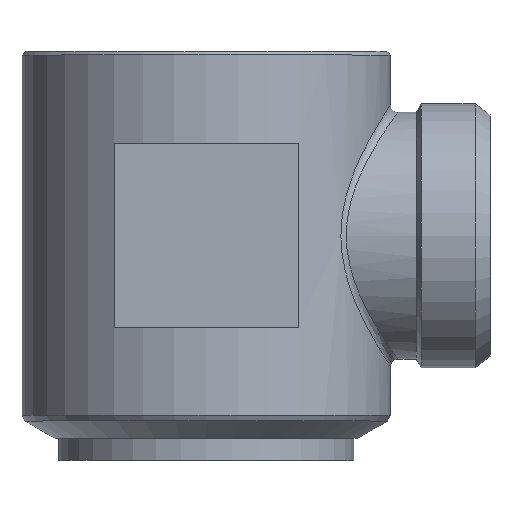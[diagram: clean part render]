
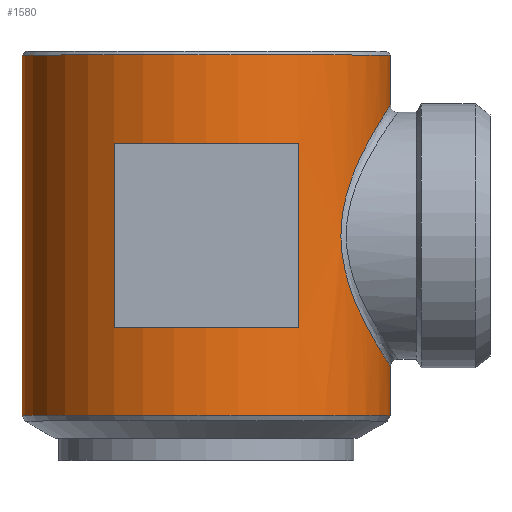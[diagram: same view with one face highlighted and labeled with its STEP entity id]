
A CAD part, top view. The second image highlights one B-rep face of the part: STEP entity #1580.
In plain terms, the highlighted cylindrical face has radius 25 mm (diameter 50 mm), a partial arc.
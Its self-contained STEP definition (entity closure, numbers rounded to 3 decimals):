
#279=CARTESIAN_POINT('',(-25.0,34.25,0.));
#280=VERTEX_POINT('',#279);
#296=CARTESIAN_POINT('',(25.0,34.25,0.0));
#297=VERTEX_POINT('',#296);
#361=CARTESIAN_POINT('',(25.0,-14.652,0.));
#362=VERTEX_POINT('',#361);
#363=CARTESIAN_POINT('',(25.0,-8.0,0.));
#364=VERTEX_POINT('',#363);
#365=CARTESIAN_POINT('',(25.0,-14.652,0.));
#366=DIRECTION('',(0.0,1.0,0.0));
#367=VECTOR('',#366,6.652);
#368=LINE('',#365,#367);
#369=EDGE_CURVE('',#362,#364,#368,.T.);
#371=CARTESIAN_POINT('',(-25.0,-14.652,0.0));
#372=VERTEX_POINT('',#371);
#380=CARTESIAN_POINT('',(-25.0,34.25,0.));
#381=DIRECTION('',(0.0,-1.0,0.0));
#382=VECTOR('',#381,48.902);
#383=LINE('',#380,#382);
#384=EDGE_CURVE('',#280,#372,#383,.T.);
#387=CARTESIAN_POINT('',(25.0,27.5,0.));
#388=VERTEX_POINT('',#387);
#389=CARTESIAN_POINT('',(25.0,27.5,0.));
#390=DIRECTION('',(0.0,1.0,0.0));
#391=VECTOR('',#390,6.75);
#392=LINE('',#389,#391);
#393=EDGE_CURVE('',#388,#297,#392,.T.);
#1469=CARTESIAN_POINT('',(0.0,-14.652,0.0));
#1470=DIRECTION('',(0.0,-1.0,0.0));
#1471=DIRECTION('',(1.0,0.0,0.0));
#1472=AXIS2_PLACEMENT_3D('',#1469,#1470,#1471);
#1473=CIRCLE('',#1472,25.0);
#1474=EDGE_CURVE('',#362,#372,#1473,.T.);
#1487=CARTESIAN_POINT('',(0.0,-17.75,0.0));
#1488=DIRECTION('',(0.0,1.0,0.0));
#1489=DIRECTION('',(1.0,0.0,0.0));
#1490=AXIS2_PLACEMENT_3D('',#1487,#1488,#1489);
#1491=CYLINDRICAL_SURFACE('',#1490,25.0);
#1492=ORIENTED_EDGE('',*,*,#369,.T.);
#1493=CARTESIAN_POINT('',(25.0,-8.0,0.));
#1494=CARTESIAN_POINT('',(25.0,-8.0,0.305));
#1495=CARTESIAN_POINT('',(24.994,-7.991,0.611));
#1496=CARTESIAN_POINT('',(24.855,-7.779,4.421));
#1497=CARTESIAN_POINT('',(23.938,-6.428,7.768));
#1498=CARTESIAN_POINT('',(21.49,-2.149,13.12));
#1499=CARTESIAN_POINT('',(19.937,0.797,15.15));
#1500=CARTESIAN_POINT('',(18.524,6.103,16.805));
#1501=CARTESIAN_POINT('',(18.238,8.09,17.099));
#1502=CARTESIAN_POINT('',(18.303,12.054,17.03));
#1503=CARTESIAN_POINT('',(18.651,14.017,16.668));
#1504=CARTESIAN_POINT('',(19.839,18.085,15.248));
#1505=CARTESIAN_POINT('',(20.764,20.118,14.038));
#1506=CARTESIAN_POINT('',(22.769,24.001,10.561));
#1507=CARTESIAN_POINT('',(23.832,25.684,8.09));
#1508=CARTESIAN_POINT('',(24.803,27.203,3.576));
#1509=CARTESIAN_POINT('',(25.0,27.5,1.788));
#1510=CARTESIAN_POINT('',(25.0,27.5,0.));
#1511=B_SPLINE_CURVE_WITH_KNOTS('',3,(#1493,#1494,#1495,#1496,#1497,#1498,#1499,#1500,#1501,#1502,#1503,#1504,#1505,#1506,#1507,#1508,#1509,#1510),.UNSPECIFIED.,.F.,.U.,(4,2,2,2,2,2,2,2,4),(26.301,27.169,37.164,47.483,52.907,58.332,65.22,73.815,78.909),.UNSPECIFIED.);
#1512=EDGE_CURVE('',#388,#364,#1511,.F.);
#1513=ORIENTED_EDGE('',*,*,#1512,.F.);
#1514=ORIENTED_EDGE('',*,*,#393,.T.);
#1515=CARTESIAN_POINT('',(0.0,34.25,0.0));
#1516=DIRECTION('',(0.0,1.0,0.0));
#1517=DIRECTION('',(-1.0,0.0,0.0));
#1518=AXIS2_PLACEMENT_3D('',#1515,#1516,#1517);
#1519=CIRCLE('',#1518,25.0);
#1520=EDGE_CURVE('',#280,#297,#1519,.T.);
#1521=ORIENTED_EDGE('',*,*,#1520,.F.);
#1522=ORIENTED_EDGE('',*,*,#384,.T.);
#1523=ORIENTED_EDGE('',*,*,#1474,.F.);
#1524=EDGE_LOOP('',(#1492,#1513,#1514,#1521,#1522,#1523));
#1525=FACE_OUTER_BOUND('',#1524,.T.);
#1526=CARTESIAN_POINT('',(-12.5,-2.75,21.651));
#1527=VERTEX_POINT('',#1526);
#1528=CARTESIAN_POINT('',(-12.5,22.25,21.651));
#1529=VERTEX_POINT('',#1528);
#1530=CARTESIAN_POINT('',(-12.5,-2.75,21.651));
#1531=DIRECTION('',(0.0,1.0,0.0));
#1532=VECTOR('',#1531,25.0);
#1533=LINE('',#1530,#1532);
#1534=EDGE_CURVE('',#1527,#1529,#1533,.T.);
#1535=ORIENTED_EDGE('',*,*,#1534,.T.);
#1536=CARTESIAN_POINT('',(0.0,22.25,25.0));
#1537=VERTEX_POINT('',#1536);
#1538=CARTESIAN_POINT('',(0.0,22.25,0.0));
#1539=DIRECTION('',(0.0,1.0,0.0));
#1540=DIRECTION('',(1.0,0.0,0.0));
#1541=AXIS2_PLACEMENT_3D('',#1538,#1539,#1540);
#1542=CIRCLE('',#1541,25.0);
#1543=EDGE_CURVE('',#1529,#1537,#1542,.T.);
#1544=ORIENTED_EDGE('',*,*,#1543,.T.);
#1545=CARTESIAN_POINT('',(12.5,22.25,21.651));
#1546=VERTEX_POINT('',#1545);
#1547=CARTESIAN_POINT('',(0.0,22.25,0.0));
#1548=DIRECTION('',(0.0,1.0,0.0));
#1549=DIRECTION('',(1.0,0.0,0.0));
#1550=AXIS2_PLACEMENT_3D('',#1547,#1548,#1549);
#1551=CIRCLE('',#1550,25.0);
#1552=EDGE_CURVE('',#1537,#1546,#1551,.T.);
#1553=ORIENTED_EDGE('',*,*,#1552,.T.);
#1554=CARTESIAN_POINT('',(12.5,-2.75,21.651));
#1555=VERTEX_POINT('',#1554);
#1556=CARTESIAN_POINT('',(12.5,22.25,21.651));
#1557=DIRECTION('',(0.0,-1.0,0.0));
#1558=VECTOR('',#1557,25.0);
#1559=LINE('',#1556,#1558);
#1560=EDGE_CURVE('',#1546,#1555,#1559,.T.);
#1561=ORIENTED_EDGE('',*,*,#1560,.T.);
#1562=CARTESIAN_POINT('',(0.0,-2.75,25.0));
#1563=VERTEX_POINT('',#1562);
#1564=CARTESIAN_POINT('',(0.0,-2.75,0.0));
#1565=DIRECTION('',(0.0,-1.0,0.0));
#1566=DIRECTION('',(1.0,0.0,0.0));
#1567=AXIS2_PLACEMENT_3D('',#1564,#1565,#1566);
#1568=CIRCLE('',#1567,25.0);
#1569=EDGE_CURVE('',#1555,#1563,#1568,.T.);
#1570=ORIENTED_EDGE('',*,*,#1569,.T.);
#1571=CARTESIAN_POINT('',(0.0,-2.75,0.0));
#1572=DIRECTION('',(0.0,-1.0,0.0));
#1573=DIRECTION('',(1.0,0.0,0.0));
#1574=AXIS2_PLACEMENT_3D('',#1571,#1572,#1573);
#1575=CIRCLE('',#1574,25.0);
#1576=EDGE_CURVE('',#1563,#1527,#1575,.T.);
#1577=ORIENTED_EDGE('',*,*,#1576,.T.);
#1578=EDGE_LOOP('',(#1535,#1544,#1553,#1561,#1570,#1577));
#1579=FACE_BOUND('',#1578,.T.);
#1580=ADVANCED_FACE('',(#1525,#1579),#1491,.T.);
